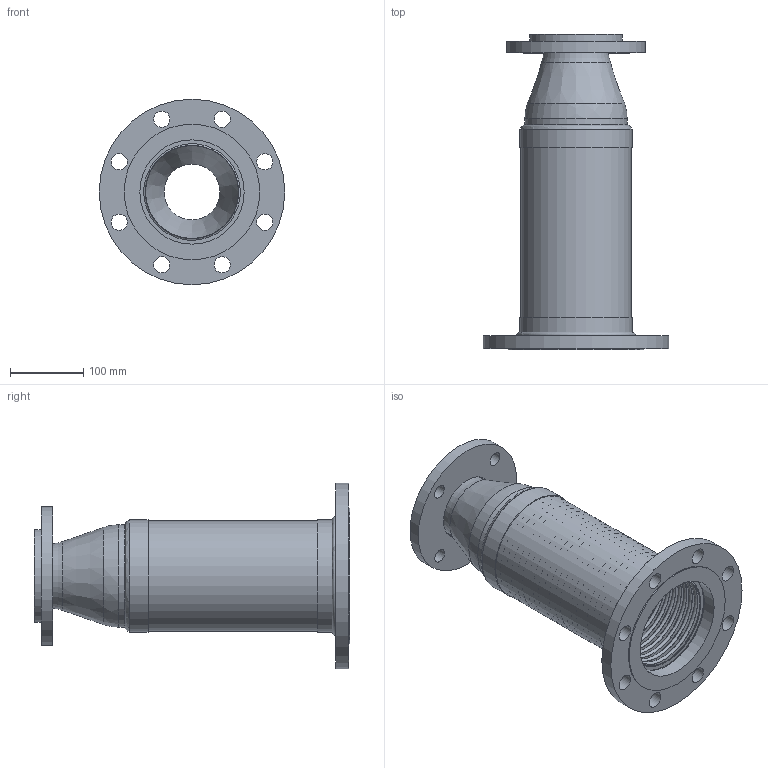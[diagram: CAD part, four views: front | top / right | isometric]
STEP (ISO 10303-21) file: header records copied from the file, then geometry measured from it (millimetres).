
FILE_DESCRIPTION((''),'2;1');
FILE_NAME('C:\2012_Work\Designs\RFFL\RFFL-5x3in.stp','2013-08-19T14:51:17',('KShiels'),(''),'Autodesk Inventor 2012','Autodesk Inventor 2012','');
FILE_SCHEMA(('AUTOMOTIVE_DESIGN { 1 0 10303 214 1 1 1 1 }'));
Length unit declared in the file: inch
Products named in the file (9): RFFL-5x3in; RFFL-5x3in_Welds; A-30998_5in_RFFL-BRAID; A-30998_5in_RFFL-BELLOWS; A-30998_5in_RFFL-BRAID-COLLAR; A-30988_5in-FIXED-FLANGE; A-30989_3in-FLOATING-FLANGE; A-30991_5x3in-REDUCER; A-30990_3in-WASHER
Assembly tree (9 placements, depth 2):
  RFFL-5x3in
    RFFL-5x3in_Welds
    A-30998_5in_RFFL-BRAID
    A-30998_5in_RFFL-BELLOWS
    A-30998_5in_RFFL-BRAID-COLLAR  x2
    A-30988_5in-FIXED-FLANGE
    A-30989_3in-FLOATING-FLANGE
    A-30991_5x3in-REDUCER
    A-30990_3in-WASHER
Bounding box: 254 x 431.99 x 254 mm (x, y, z)
Volume: 1462324.4 mm3; surface area: 1271742.7 mm2
Topology: 11 solids, 11 shells, 280 faces, 469 edges, 317 vertices
Faces by surface type: plane 128, torus 111, cylinder 32, cone 5, bspline 4
Full cylindrical faces by diameter (mm): 19.05 x4, 22.225 x8, 76.2 x1, 87.173 x1, 92.075 x3, 127 x2, 140.106 x2, 142.875 x1, 150.114 x1, 151.13 x3, 153.511 x3, 185.738 x1, 190.5 x1, 254 x1
Entity records: 6964 total; most frequent: CARTESIAN_POINT 1801, DIRECTION 1144, ORIENTED_EDGE 594, EDGE_LOOP 573, AXIS2_PLACEMENT_3D 572, EDGE_CURVE 297, FACE_BOUND 297, VERTEX_POINT 294
